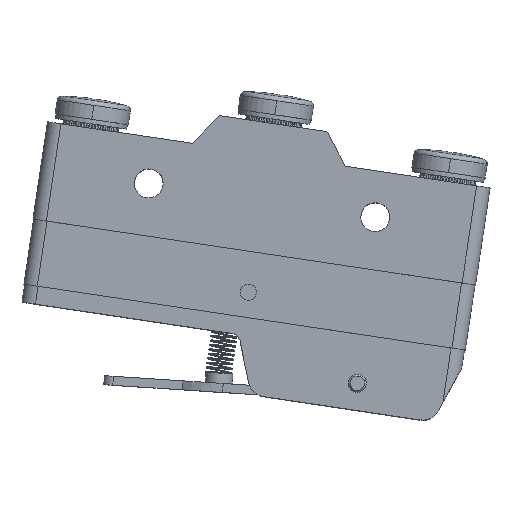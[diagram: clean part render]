
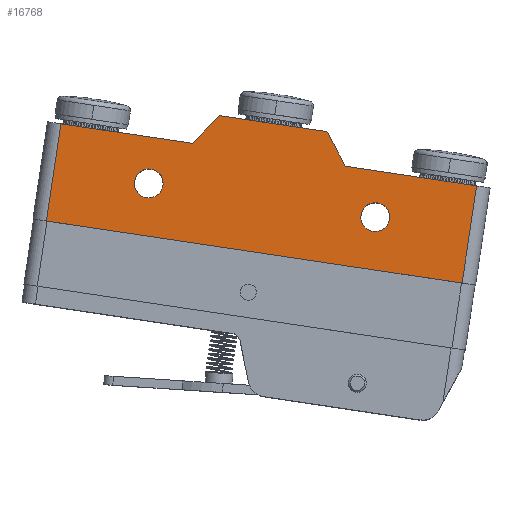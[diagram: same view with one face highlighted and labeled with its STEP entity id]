
A CAD part, top view. The second image highlights one B-rep face of the part: STEP entity #16768.
In plain terms, the highlighted planar face has unit normal (0, 0, 1).
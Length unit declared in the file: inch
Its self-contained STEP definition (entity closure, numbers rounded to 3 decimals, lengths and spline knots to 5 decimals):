
#2495=DIRECTION('',(-0.148,-0.989,0.));
#2496=VECTOR('',#2495,10.9);
#2497=CARTESIAN_POINT('',(24.25708,19.28472,8.8));
#2498=LINE('',#2497,#2496);
#3421=DIRECTION('',(0.989,-0.148,0.));
#3422=VECTOR('',#3421,14.7);
#3423=CARTESIAN_POINT('',(24.25708,19.28472,8.8));
#3424=LINE('',#3423,#3422);
#3425=DIRECTION('',(0.708,0.706,0.));
#3426=VECTOR('',#3425,4.36005);
#3427=CARTESIAN_POINT('',(38.79585,17.11346,8.8));
#3428=LINE('',#3427,#3426);
#3429=DIRECTION('',(0.989,-0.148,0.));
#3430=VECTOR('',#3429,12.);
#3431=CARTESIAN_POINT('',(41.8843,20.19103,8.8));
#3432=LINE('',#3431,#3430);
#3433=DIRECTION('',(0.471,-0.882,0.));
#3434=VECTOR('',#3433,4.36005);
#3435=CARTESIAN_POINT('',(53.75267,18.41858,8.8));
#3436=LINE('',#3435,#3434);
#3437=DIRECTION('',(0.989,-0.148,0.));
#3438=VECTOR('',#3437,14.7);
#3439=CARTESIAN_POINT('',(55.80719,14.57293,8.8));
#3440=LINE('',#3439,#3438);
#3441=DIRECTION('',(-0.989,0.148,0.));
#3442=VECTOR('',#3441,46.6);
#3443=CARTESIAN_POINT('',(68.73597,1.62123,8.8));
#3444=LINE('',#3443,#3442);
#3445=CARTESIAN_POINT('',(33.98752,12.67498,8.8));
#3446=DIRECTION('',(0.,0.,1.));
#3447=DIRECTION('',(0.989,-0.148,0.));
#3448=AXIS2_PLACEMENT_3D('',#3445,#3446,#3447);
#3450=CARTESIAN_POINT('',(33.98752,12.67498,8.8));
#3451=DIRECTION('',(0.,0.,1.));
#3452=DIRECTION('',(-0.989,0.148,0.));
#3453=AXIS2_PLACEMENT_3D('',#3450,#3451,#3452);
#3455=CARTESIAN_POINT('',(59.10892,8.92328,8.8));
#3456=DIRECTION('',(0.,0.,1.));
#3457=DIRECTION('',(0.989,-0.148,0.));
#3458=AXIS2_PLACEMENT_3D('',#3455,#3456,#3457);
#3460=CARTESIAN_POINT('',(59.10892,8.92328,8.8));
#3461=DIRECTION('',(0.,0.,1.));
#3462=DIRECTION('',(-0.989,0.148,0.));
#3463=AXIS2_PLACEMENT_3D('',#3460,#3461,#3462);
#4383=DIRECTION('',(0.148,0.989,0.));
#4384=VECTOR('',#4383,10.9);
#4385=CARTESIAN_POINT('',(68.73597,1.62123,8.8));
#4386=LINE('',#4385,#4384);
#11796=CARTESIAN_POINT('',(22.6471,8.50427,8.8));
#11798=VERTEX_POINT('',#11796);
#11799=CARTESIAN_POINT('',(68.73597,1.62123,8.8));
#11800=VERTEX_POINT('',#11799);
#11817=CARTESIAN_POINT('',(24.25708,19.28472,8.8));
#11818=VERTEX_POINT('',#11817);
#11845=CARTESIAN_POINT('',(70.34595,12.40167,8.8));
#11846=VERTEX_POINT('',#11845);
#11847=CARTESIAN_POINT('',(38.79585,17.11346,8.8));
#11848=VERTEX_POINT('',#11847);
#11849=CARTESIAN_POINT('',(41.8843,20.19103,8.8));
#11850=VERTEX_POINT('',#11849);
#11851=CARTESIAN_POINT('',(53.75267,18.41858,8.8));
#11852=VERTEX_POINT('',#11851);
#11853=CARTESIAN_POINT('',(55.80719,14.57293,8.8));
#11854=VERTEX_POINT('',#11853);
#11855=CARTESIAN_POINT('',(35.56997,12.43866,8.8));
#11856=CARTESIAN_POINT('',(32.40507,12.91131,8.8));
#11857=VERTEX_POINT('',#11855);
#11858=VERTEX_POINT('',#11856);
#11859=CARTESIAN_POINT('',(60.69137,8.68696,8.8));
#11860=CARTESIAN_POINT('',(57.52647,9.15961,8.8));
#11861=VERTEX_POINT('',#11859);
#11862=VERTEX_POINT('',#11860);
#16738=CARTESIAN_POINT('',(46.75501,12.18378,8.8));
#16739=DIRECTION('',(0.,0.,1.));
#16740=DIRECTION('',(0.989,-0.148,0.));
#16741=AXIS2_PLACEMENT_3D('',#16738,#16739,#16740);
#16742=PLANE('',#16741);
#16743=ORIENTED_EDGE('',*,*,#16449,.F.);
#16744=ORIENTED_EDGE('',*,*,#16476,.T.);
#16745=ORIENTED_EDGE('',*,*,#16732,.T.);
#16746=ORIENTED_EDGE('',*,*,#16160,.T.);
#16748=ORIENTED_EDGE('',*,*,#16747,.T.);
#16750=ORIENTED_EDGE('',*,*,#16749,.T.);
#16752=ORIENTED_EDGE('',*,*,#16751,.F.);
#16753=ORIENTED_EDGE('',*,*,#16406,.T.);
#16754=EDGE_LOOP('',(#16743,#16744,#16745,#16746,#16748,#16750,#16752,#16753));
#16755=FACE_OUTER_BOUND('',#16754,.F.);
#16757=ORIENTED_EDGE('',*,*,#16756,.T.);
#16759=ORIENTED_EDGE('',*,*,#16758,.T.);
#16760=EDGE_LOOP('',(#16757,#16759));
#16761=FACE_BOUND('',#16760,.F.);
#16763=ORIENTED_EDGE('',*,*,#16762,.T.);
#16765=ORIENTED_EDGE('',*,*,#16764,.T.);
#16766=EDGE_LOOP('',(#16763,#16765));
#16767=FACE_BOUND('',#16766,.F.);
#16768=ADVANCED_FACE('',(#16755,#16761,#16767),#16742,.T.);
#3449=CIRCLE('',#3448,1.6);
#3454=CIRCLE('',#3453,1.6);
#3459=CIRCLE('',#3458,1.6);
#3464=CIRCLE('',#3463,1.6);
#16160=EDGE_CURVE('',#11850,#11852,#3432,.T.);
#16406=EDGE_CURVE('',#11800,#11798,#3444,.T.);
#16449=EDGE_CURVE('',#11818,#11798,#2498,.T.);
#16476=EDGE_CURVE('',#11818,#11848,#3424,.T.);
#16732=EDGE_CURVE('',#11848,#11850,#3428,.T.);
#16747=EDGE_CURVE('',#11852,#11854,#3436,.T.);
#16749=EDGE_CURVE('',#11854,#11846,#3440,.T.);
#16751=EDGE_CURVE('',#11800,#11846,#4386,.T.);
#16756=EDGE_CURVE('',#11857,#11858,#3449,.T.);
#16758=EDGE_CURVE('',#11858,#11857,#3454,.T.);
#16762=EDGE_CURVE('',#11861,#11862,#3459,.T.);
#16764=EDGE_CURVE('',#11862,#11861,#3464,.T.);
